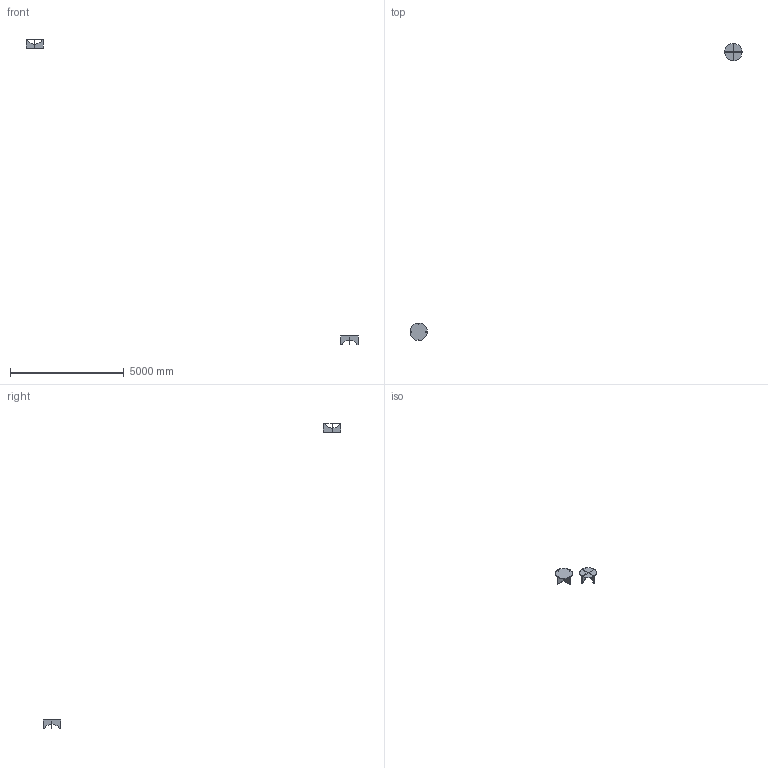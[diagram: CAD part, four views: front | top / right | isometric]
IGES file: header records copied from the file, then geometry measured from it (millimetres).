
Global section: file name: N:\e15\ ENTWICKLUNG\E15_PRODUKTE_DWG_DXF\neue_Produkte_2012\FK05_CHARLOTTE\3D\120327_FK05_CHARLOTTE_Isometrie.igs; native system: VectorWorks; preprocessor: HarmonyWare IGES v1.5.9; date: 20120327.124616; units: millimetre
Bounding box: 14626.11 x 13113.57 x 13462 mm (x, y, z)
Volume: 20622234.2 mm3; surface area: 3614361.3 mm2
Topology: 6 solids, 6 shells, 46 faces, 102 edges, 68 vertices
Faces by surface type: bspline 46
